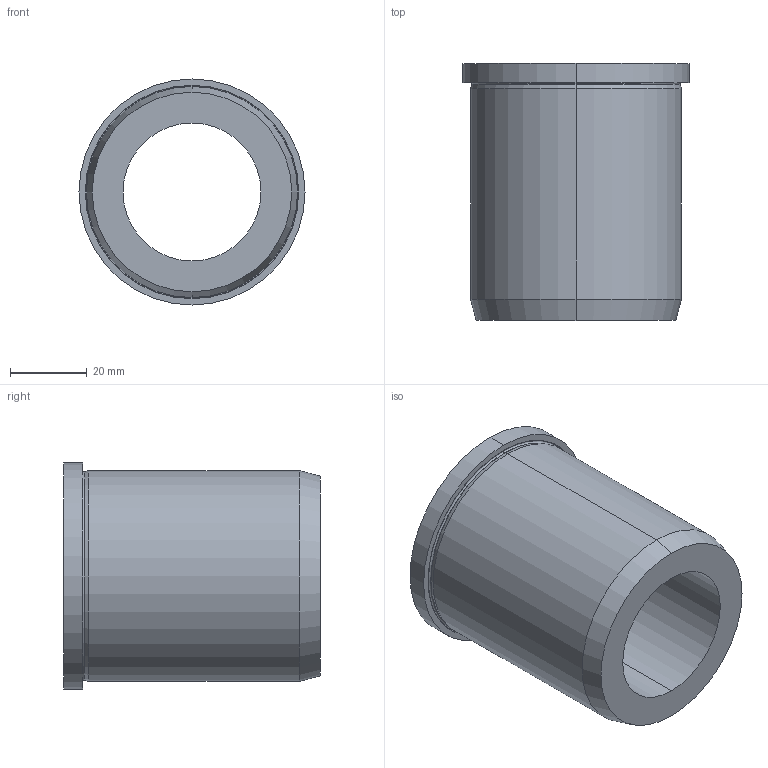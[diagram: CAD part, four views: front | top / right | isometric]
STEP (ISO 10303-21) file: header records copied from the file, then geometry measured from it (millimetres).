
FILE_DESCRIPTION (( 'STEP AP214' ), '1' );
FILE_NAME ('172-B36-67-A.step', '2024-10-17T05:27:28', ( '' ), ( '' ), 'SwSTEP 2.0', 'SolidWorks 2022', '' );
FILE_SCHEMA (( 'AUTOMOTIVE_DESIGN' ));
Length unit declared in the file: millimetre
Products named in the file (1): 172-B36-67-A
Bounding box: 59 x 67 x 59 mm (x, y, z)
Volume: 91957 mm3; surface area: 22359.5 mm2
Topology: 1 solids, 1 shells, 21 faces, 42 edges, 24 vertices
Faces by surface type: torus 6, cone 6, cylinder 6, plane 3
Entity records: 632 total; most frequent: DIRECTION 116, CARTESIAN_POINT 88, ORIENTED_EDGE 84, AXIS2_PLACEMENT_3D 52, EDGE_CURVE 42, CIRCLE 30, EDGE_LOOP 24, VERTEX_POINT 24
